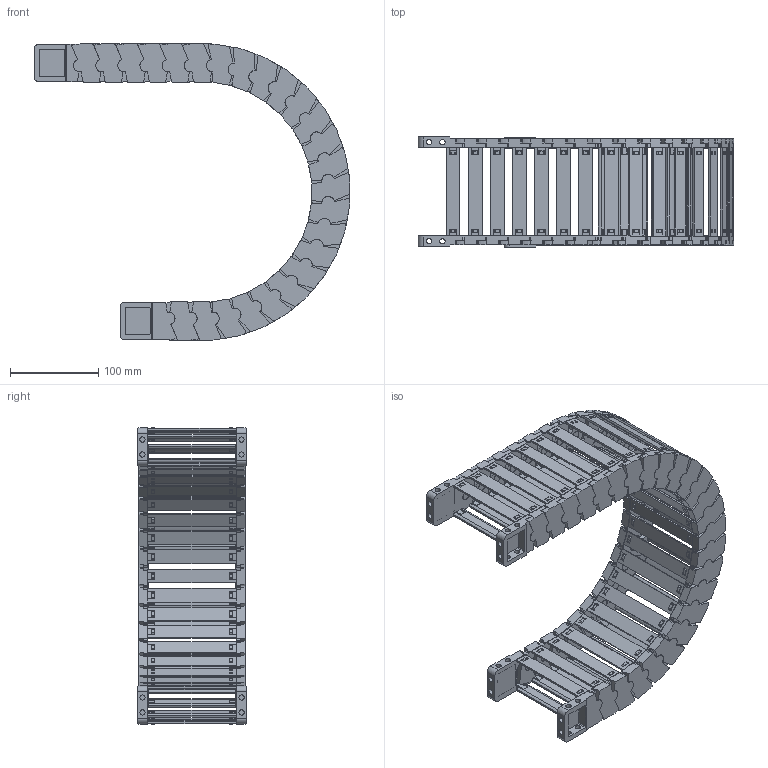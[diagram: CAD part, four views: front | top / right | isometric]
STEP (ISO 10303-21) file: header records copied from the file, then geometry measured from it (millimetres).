
FILE_DESCRIPTION((''),'2;1');
FILE_NAME('JY-35X100-R150_ASM','2026-05-07T15:23:02',('admin'),(''),'CREO PARAMETRIC BY PTC INC, 2021023','CREO PARAMETRIC BY PTC INC, 2021023','');
FILE_SCHEMA(('CONFIG_CONTROL_DESIGN'));
Length unit declared in the file: millimetre
Products named in the file (11): 35XL-L; 25-35XL-YP; 35XL-R; ASM0001_ASM; 35-LTT-A-L; 35-LTT-A-R; 35XL-LTT-A_ASM; 35-LTT-B-L; 35-LTT-B-R; 35XL-LTT-B_ASM; JY-35X100-R150_ASM
Assembly tree (39 placements, depth 3):
  JY-35X100-R150_ASM
    ASM0001_ASM  x25
      35XL-L
      25-35XL-YP
      35XL-R
    35XL-LTT-A_ASM
      35-LTT-A-L
      25-35XL-YP  x2
      35-LTT-A-R
    35XL-LTT-B_ASM
      35-LTT-B-L
      25-35XL-YP  x2
      35-LTT-B-R
Bounding box: 358.3 x 124.6 x 336.22 mm (x, y, z)
Volume: 835310.3 mm3; surface area: 519728.2 mm2
Topology: 108 solids, 108 shells, 5602 faces, 16394 edges, 10960 vertices
Faces by surface type: plane 4266, cylinder 1332, bspline 4
Entity records: 17208 total; most frequent: CARTESIAN_POINT 3198, DIRECTION 2876, ORIENTED_EDGE 2876, EDGE_CURVE 1438, VECTOR 1056, LINE 1056, VERTEX_POINT 964, AXIS2_PLACEMENT_3D 910
